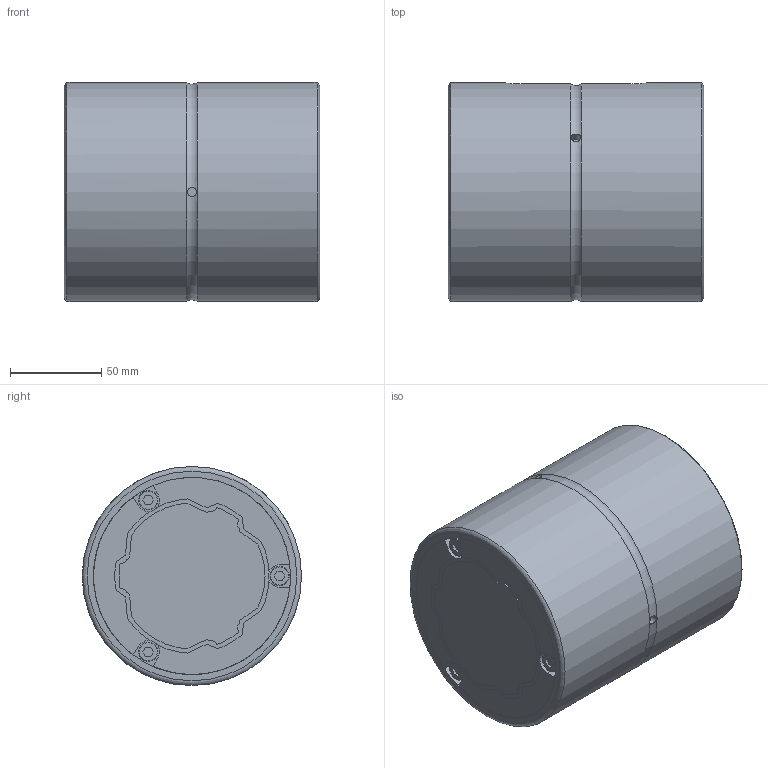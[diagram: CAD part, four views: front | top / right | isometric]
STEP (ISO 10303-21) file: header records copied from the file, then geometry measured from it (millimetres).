
FILE_DESCRIPTION(/* description */ ('STEP AP203'),/* implementation_level */ '2;1');
FILE_NAME(/* name */ 'SLS801140(00)',/* time_stamp */ '2024-05-23T11:47:25+02:00',/* author */ ('License CC BY-ND 4.0'),/* organization */ ('CADENAS'),/* preprocessor_version */ 'ST-DEVELOPER v19.3',/* originating_system */ 'PARTsolutions',/* authorisation */ ' ');
FILE_SCHEMA (('CONFIG_CONTROL_DESIGN'));
Length unit declared in the file: millimetre
Products named in the file (3): SLS801140(00); 80(X140); 80X cylinder
Assembly tree (2 placements, depth 2):
  SLS801140(00)
    80(X140)
    80X cylinder
Bounding box: 140 x 120 x 120 mm (x, y, z)
Volume: 1567916.4 mm3; surface area: 151261.1 mm2
Topology: 2 solids, 2 shells, 252 faces, 688 edges, 457 vertices
Faces by surface type: plane 144, cylinder 99, torus 9
Full cylindrical faces by diameter (mm): 5 x3, 10.5 x6, 108 x2, 120 x2
Entity records: 7987 total; most frequent: CARTESIAN_POINT 1440, DIRECTION 1386, ORIENTED_EDGE 1320, EDGE_CURVE 660, AXIS2_PLACEMENT_3D 478, VERTEX_POINT 450, LINE 430, VECTOR 430
